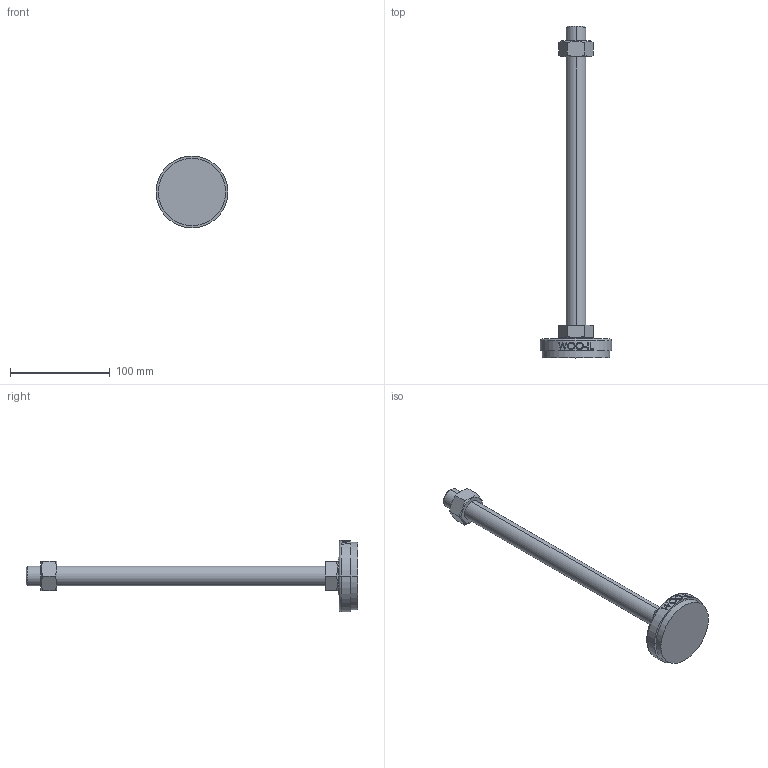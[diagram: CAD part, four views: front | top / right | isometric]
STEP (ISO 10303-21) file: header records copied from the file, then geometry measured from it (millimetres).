
FILE_DESCRIPTION (( 'STEP AP214' ), '1' );
FILE_NAME ('NS72-M20-300.step', '2021-01-11T05:48:51', ( '' ), ( '' ), 'SwSTEP 2.0', 'SolidWorks 2019', '' );
FILE_SCHEMA (( 'AUTOMOTIVE_DESIGN' ));
Length unit declared in the file: millimetre
Products named in the file (2): NS72-M20-300
Bounding box: 72 x 333 x 72 mm (x, y, z)
Volume: 186331.9 mm3; surface area: 37379.1 mm2
Topology: 3 solids, 3 shells, 96 faces, 223 edges, 144 vertices
Faces by surface type: plane 48, cylinder 18, bspline 16, cone 12, torus 2
Entity records: 4274 total; most frequent: CARTESIAN_POINT 2149, ORIENTED_EDGE 446, DIRECTION 381, EDGE_CURVE 223, VERTEX_POINT 144, AXIS2_PLACEMENT_3D 142, EDGE_LOOP 109, LINE 97
